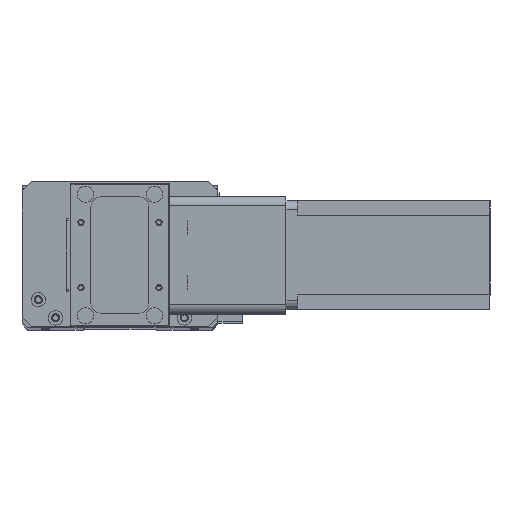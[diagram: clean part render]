
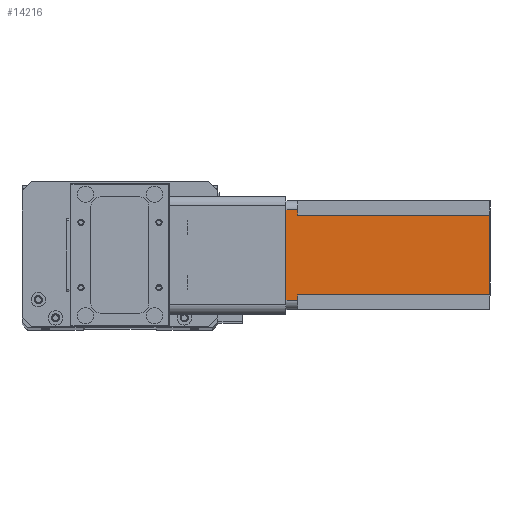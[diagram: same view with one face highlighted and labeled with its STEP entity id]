
A CAD part, top view. The second image highlights one B-rep face of the part: STEP entity #14216.
In plain terms, the highlighted planar face has unit normal (0, 0, 1) as drawn and (0, 1, 0) by its records, which use the part's own axes.
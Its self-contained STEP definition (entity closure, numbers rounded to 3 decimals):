
#1112 = LINE ( 'NONE', #20367, #5217 ) ;
#2337 = VECTOR ( 'NONE', #12388, 1000. ) ;
#2669 = EDGE_CURVE ( 'NONE', #7466, #12355, #1112, .T. ) ;
#3166 = ORIENTED_EDGE ( 'NONE', *, *, #14817, .T. ) ;
#3745 = VERTEX_POINT ( 'NONE', #11010 ) ;
#4016 = LINE ( 'NONE', #6857, #5281 ) ;
#4234 = DIRECTION ( 'NONE',  ( 0., 0., 1. ) ) ;
#4696 = CARTESIAN_POINT ( 'NONE',  ( 52., 60., -112.5 ) ) ;
#5217 = VECTOR ( 'NONE', #4234, 1000. ) ;
#5281 = VECTOR ( 'NONE', #18958, 1000. ) ;
#5629 = CARTESIAN_POINT ( 'NONE',  ( 8., 60., -112.5 ) ) ;
#5981 = DIRECTION ( 'NONE',  ( 0., 0., -1. ) ) ;
#6059 = PLANE ( 'NONE',  #22684 ) ;
#6089 = DIRECTION ( 'NONE',  ( 1., 0., 0. ) ) ;
#6592 = DIRECTION ( 'NONE',  ( 0., 0., -1. ) ) ;
#6669 = VERTEX_POINT ( 'NONE', #10156 ) ;
#6857 = CARTESIAN_POINT ( 'NONE',  ( 8., 60., -6.5 ) ) ;
#6929 = CARTESIAN_POINT ( 'NONE',  ( 52., 60., -6.5 ) ) ;
#7010 = VECTOR ( 'NONE', #10316, 1000. ) ;
#7466 = VERTEX_POINT ( 'NONE', #13206 ) ;
#7670 = LINE ( 'NONE', #10946, #7010 ) ;
#7680 = EDGE_CURVE ( 'NONE', #9890, #25147, #11185, .T. ) ;
#8541 = EDGE_CURVE ( 'NONE', #9890, #18387, #7670, .T. ) ;
#9113 = ORIENTED_EDGE ( 'NONE', *, *, #20021, .F. ) ;
#9482 = ORIENTED_EDGE ( 'NONE', *, *, #14175, .T. ) ;
#9645 = ORIENTED_EDGE ( 'NONE', *, *, #8541, .F. ) ;
#9707 = DIRECTION ( 'NONE',  ( -1., 0., 0. ) ) ;
#9811 = CARTESIAN_POINT ( 'NONE',  ( 0., 60., 0. ) ) ;
#9890 = VERTEX_POINT ( 'NONE', #4696 ) ;
#9937 = VECTOR ( 'NONE', #6089, 1000. ) ;
#10057 = CARTESIAN_POINT ( 'NONE',  ( 55., 60., -112.5 ) ) ;
#10147 = DIRECTION ( 'NONE',  ( 0., 1., 0. ) ) ;
#10156 = CARTESIAN_POINT ( 'NONE',  ( 55., 60., 0. ) ) ;
#10316 = DIRECTION ( 'NONE',  ( 0., 0., 1. ) ) ;
#10860 = ORIENTED_EDGE ( 'NONE', *, *, #7680, .T. ) ;
#10946 = CARTESIAN_POINT ( 'NONE',  ( 52., 60., -112.5 ) ) ;
#11010 = CARTESIAN_POINT ( 'NONE',  ( 55., 60., -6.5 ) ) ;
#11185 = LINE ( 'NONE', #14327, #2337 ) ;
#11330 = VERTEX_POINT ( 'NONE', #25932 ) ;
#12355 = VERTEX_POINT ( 'NONE', #15834 ) ;
#12388 = DIRECTION ( 'NONE',  ( -1., 0., 0. ) ) ;
#12641 = ORIENTED_EDGE ( 'NONE', *, *, #16496, .F. ) ;
#13206 = CARTESIAN_POINT ( 'NONE',  ( 5., 60., -6.5 ) ) ;
#13211 = FACE_OUTER_BOUND ( 'NONE', #22347, .T. ) ;
#13740 = LINE ( 'NONE', #9811, #23804 ) ;
#13778 = VECTOR ( 'NONE', #6592, 1000. ) ;
#14098 = CARTESIAN_POINT ( 'NONE',  ( 0., 60., -112.5 ) ) ;
#14175 = EDGE_CURVE ( 'NONE', #6669, #3745, #18552, .T. ) ;
#14216 = ADVANCED_FACE ( 'NONE', ( #13211 ), #6059, .T. ) ;
#14327 = CARTESIAN_POINT ( 'NONE',  ( 0., 60., -112.5 ) ) ;
#14641 = LINE ( 'NONE', #20219, #9937 ) ;
#14817 = EDGE_CURVE ( 'NONE', #11330, #7466, #4016, .T. ) ;
#15115 = ORIENTED_EDGE ( 'NONE', *, *, #2669, .T. ) ;
#15834 = CARTESIAN_POINT ( 'NONE',  ( 5., 60., 0. ) ) ;
#15916 = LINE ( 'NONE', #18683, #13778 ) ;
#16496 = EDGE_CURVE ( 'NONE', #6669, #12355, #13740, .T. ) ;
#17936 = ORIENTED_EDGE ( 'NONE', *, *, #22454, .F. ) ;
#18387 = VERTEX_POINT ( 'NONE', #6929 ) ;
#18552 = LINE ( 'NONE', #10057, #23286 ) ;
#18683 = CARTESIAN_POINT ( 'NONE',  ( 8., 60., -112.5 ) ) ;
#18958 = DIRECTION ( 'NONE',  ( -1., 0., 0. ) ) ;
#20021 = EDGE_CURVE ( 'NONE', #11330, #25147, #15916, .T. ) ;
#20219 = CARTESIAN_POINT ( 'NONE',  ( 52., 60., -6.5 ) ) ;
#20367 = CARTESIAN_POINT ( 'NONE',  ( 5., 60., -112.5 ) ) ;
#22347 = EDGE_LOOP ( 'NONE', ( #12641, #9482, #17936, #9645, #10860, #9113, #3166, #15115 ) ) ;
#22454 = EDGE_CURVE ( 'NONE', #18387, #3745, #14641, .T. ) ;
#22684 = AXIS2_PLACEMENT_3D ( 'NONE', #14098, #10147, #24214 ) ;
#23286 = VECTOR ( 'NONE', #5981, 1000. ) ;
#23804 = VECTOR ( 'NONE', #9707, 1000. ) ;
#24214 = DIRECTION ( 'NONE',  ( 0., 0., 1. ) ) ;
#25147 = VERTEX_POINT ( 'NONE', #5629 ) ;
#25932 = CARTESIAN_POINT ( 'NONE',  ( 8., 60., -6.5 ) ) ;
